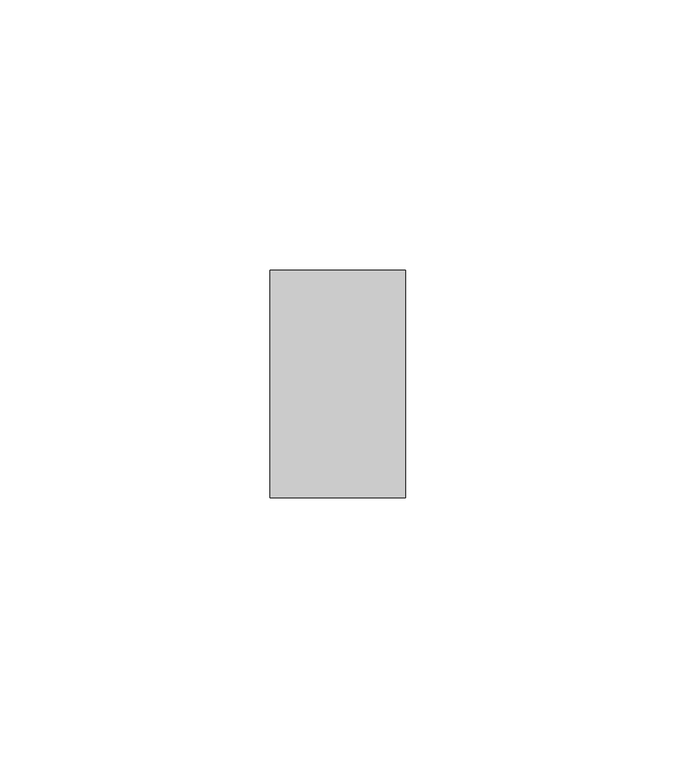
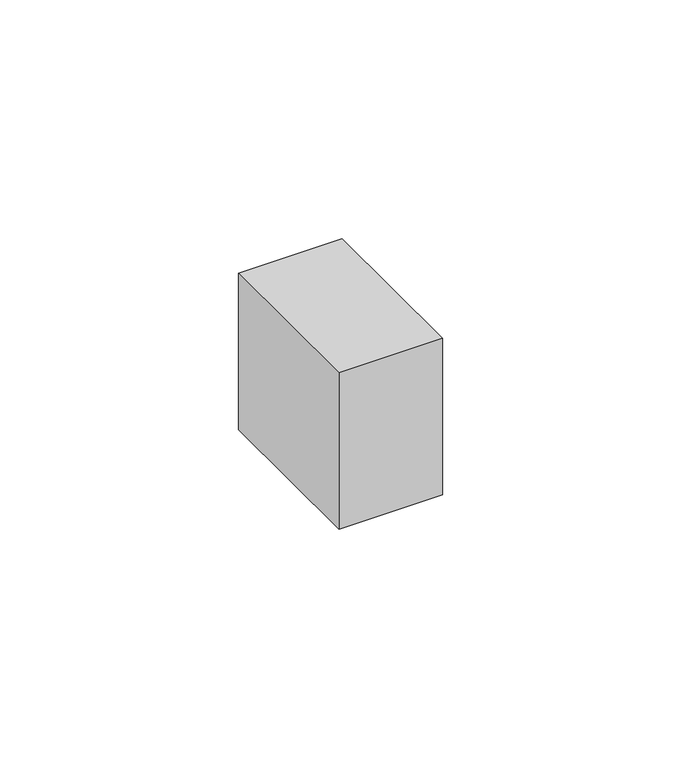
"""IFC4 building model written with IfcOpenShell, lengths in millimetres: duct fitting geometry, КНС_Заглушка_DKC : Стандартное."""

from ifc_helpers import new_model, si_unit, frame, origin, place, context, project, spatial, polyline, outline, extrude, source, transform, mapped, element, save


def duct_fitting_d90d921c(model_context):
    return source(origin(), model_context, "Body", "SweptSolid", [
        extrude(outline(polyline([(0.0, -21.0), (0.0, 21.0), (25.0, 21.0), (25.0, -21.0), (0.0, -21.0)])), frame((0.0, 0.0, -20.0), z_axis=(0.0, 0.0, 1.0), x_axis=(1.0, 0.0, 0.0)), (0.0, 0.0, 1.0), 40.0),
    ])


if __name__ == "__main__":
    model = new_model("IFC4")
    model_context = context("Model", 3, world=origin())
    ifc_project = project(units=[si_unit("LENGTHUNIT", "METRE", prefix="MILLI")], contexts=[model_context])
    site = spatial("IfcSite", under=ifc_project)
    building = spatial("IfcBuilding", under=site)
    placement = place(None, origin())
    duct_fitting_shape = duct_fitting_d90d921c(model_context)
    element("IfcDuctFitting", 1, ObjectType="КНС_Заглушка_DKC : Стандартное", at=placement, inside=building, context=model_context, shape_type="MappedRepresentation", body=[
        mapped(duct_fitting_shape, transform((0.0, 0.0, 0.0), x_axis=(1.0, 0.0, 0.0), y_axis=(0.0, 1.0, 0.0), z_axis=(0.0, 0.0, 1.0))),
    ])
    save(model, "model.ifc")
